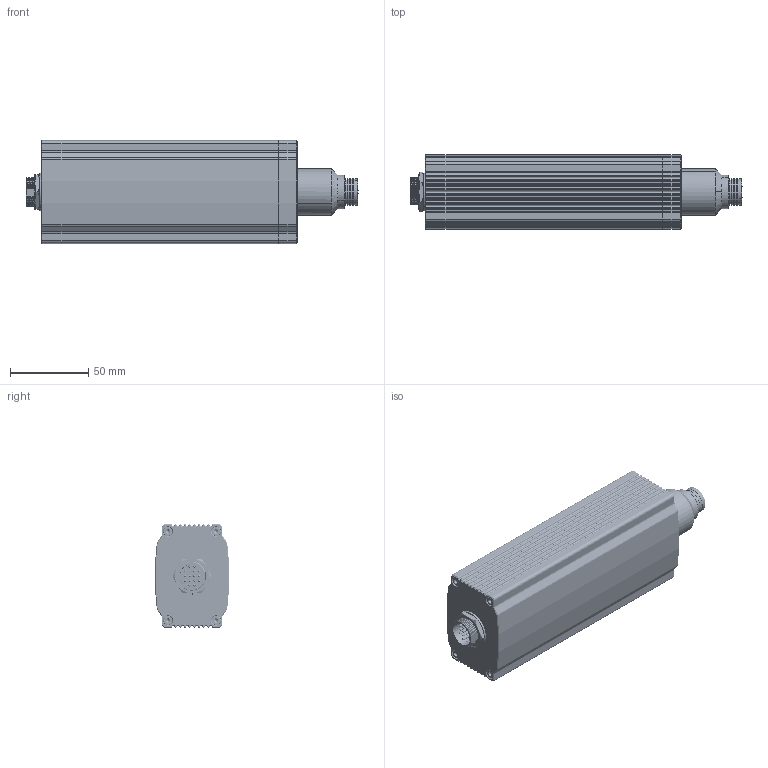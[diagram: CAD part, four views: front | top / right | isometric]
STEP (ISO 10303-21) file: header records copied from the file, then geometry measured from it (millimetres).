
FILE_DESCRIPTION((''),'2;1');
FILE_NAME('FI1044DC-HA','2025-12-25T16:37:04',('Admin'),(''),'CREO PARAMETRIC BY PTC INC, 2020074','CREO PARAMETRIC BY PTC INC, 2020074','');
FILE_SCHEMA(('CONFIG_CONTROL_DESIGN'));
Length unit declared in the file: millimetre
Products named in the file (1): FI1044DC-HA
Bounding box: 212.62 x 47.68 x 66 mm (x, y, z)
Volume: 257397.8 mm3; surface area: 149310.9 mm2
Topology: 16 solids, 33 shells, 2439 faces, 6780 edges, 4318 vertices
Faces by surface type: cylinder 1101, plane 584, cone 444, torus 173, sphere 92, bspline 44, extrusion 1
Entity records: 112893 total; most frequent: CARTESIAN_POINT 53294, ORIENTED_EDGE 13265, DIRECTION 11538, EDGE_CURVE 6634, AXIS2_PLACEMENT_3D 4596, VERTEX_POINT 4318, EDGE_LOOP 2641, FACE_OUTER_BOUND 2439
